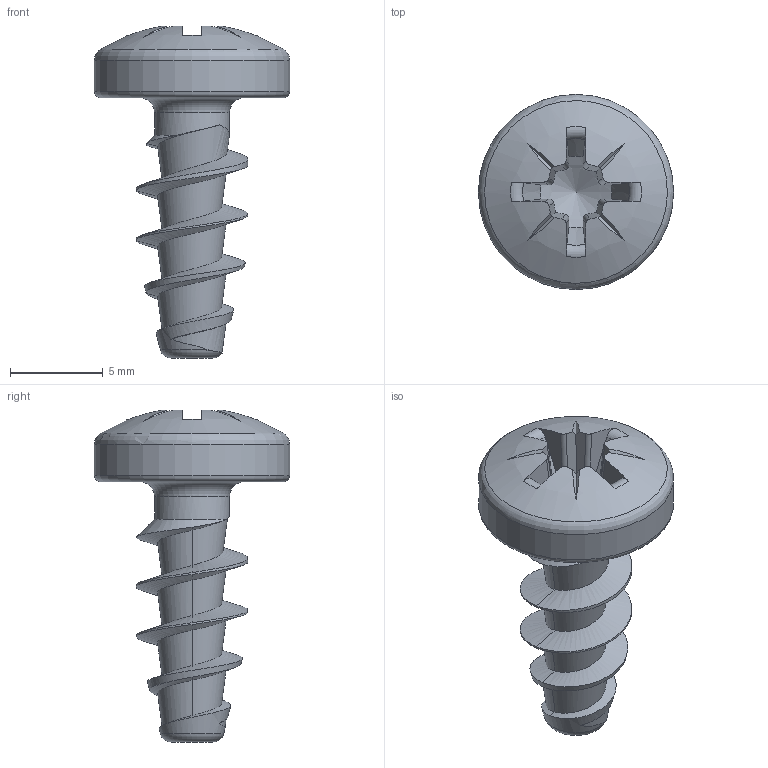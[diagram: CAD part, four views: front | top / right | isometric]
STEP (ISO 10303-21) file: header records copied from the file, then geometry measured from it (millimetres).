
FILE_DESCRIPTION(/* description */ (''),/* implementation_level */ '2;1');
FILE_NAME(/* name */ 'KN1032-Neu-STS-60x14-Z3.step',/* time_stamp */ '2019-01-09T15:32:47+01:00',/* author */ (''),/* organization */ (''),/* preprocessor_version */ 'ST-DEVELOPER v16',/* originating_system */ 'SIEMENS PLM Software NX 10.0',/* authorisation */ '');
FILE_SCHEMA (('AUTOMOTIVE_DESIGN { 1 0 10303 214 3 1 1 1 }'));
Length unit declared in the file: millimetre
Products named in the file (1): KN1032-Neu-STS-60x14-Z3
Bounding box: 10.5 x 10.5 x 17.86 mm (x, y, z)
Volume: 412.1 mm3; surface area: 546 mm2
Topology: 1 solids, 1 shells, 68 faces, 183 edges, 117 vertices
Faces by surface type: plane 26, bspline 15, cylinder 11, torus 8, cone 7, sphere 1
Full cylindrical faces by diameter (mm): 4.03 x1, 10.5 x1
Entity records: 3375 total; most frequent: CARTESIAN_POINT 1878, ORIENTED_EDGE 338, DIRECTION 246, EDGE_CURVE 169, VERTEX_POINT 112, AXIS2_PLACEMENT_3D 101, B_SPLINE_CURVE_WITH_KNOTS 78, EDGE_LOOP 76
